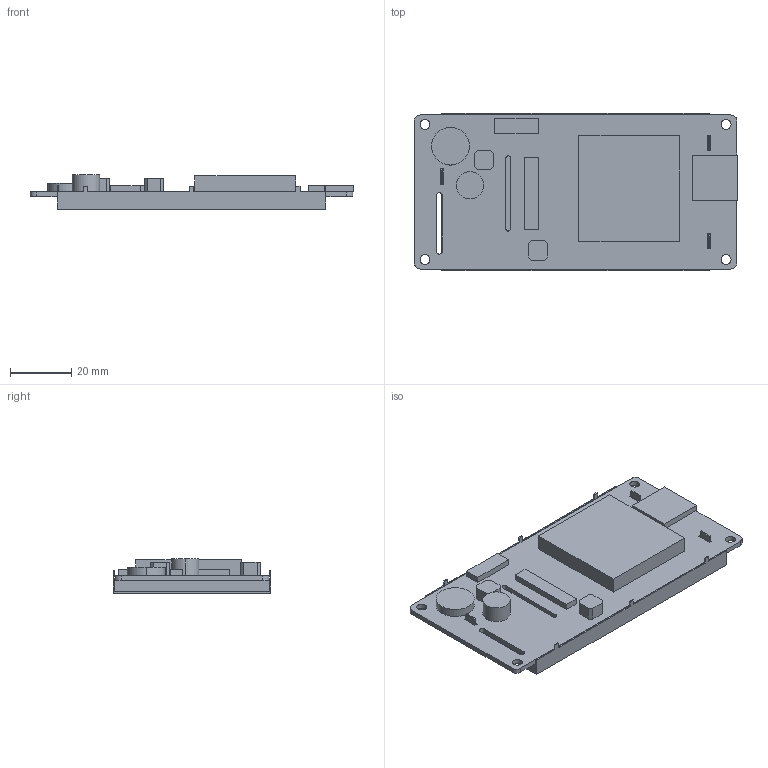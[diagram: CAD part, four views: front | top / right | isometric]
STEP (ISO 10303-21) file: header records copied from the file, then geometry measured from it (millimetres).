
FILE_DESCRIPTION (( 'STEP AP214' ), '1' );
FILE_NAME ('3d-dmg80480t035-01wn.STEP', '2023-07-19T02:01:06', ( '' ), ( 'Microsoft' ), 'SwSTEP 2.0', 'SolidWorks 2017', '' );
FILE_SCHEMA (( 'AUTOMOTIVE_DESIGN' ));
Length unit declared in the file: millimetre
Products named in the file (1): 3d-dmg80480t035-01wn
Bounding box: 105.3 x 51.26 x 11.2 mm (x, y, z)
Volume: 26419.5 mm3; surface area: 25009.4 mm2
Topology: 1 solids, 1 shells, 172 faces, 492 edges, 320 vertices
Faces by surface type: plane 148, cylinder 24
Entity records: 7340 total; most frequent: CARTESIAN_POINT 991, ORIENTED_EDGE 984, DIRECTION 886, EDGE_CURVE 492, VECTOR 440, LINE 440, VERTEX_POINT 320, AXIS2_PLACEMENT_3D 223
